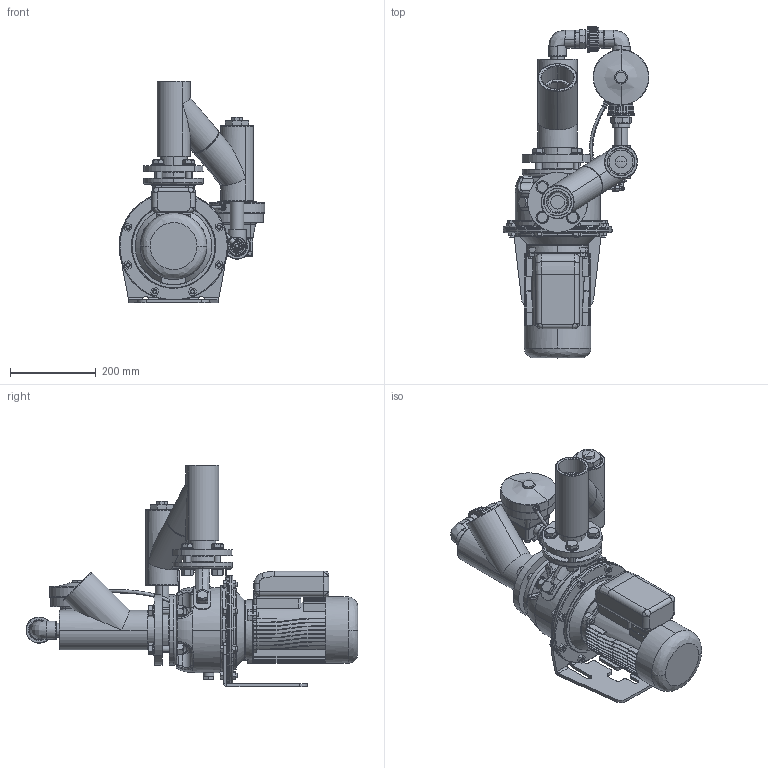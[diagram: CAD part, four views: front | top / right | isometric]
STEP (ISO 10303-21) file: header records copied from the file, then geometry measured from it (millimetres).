
FILE_DESCRIPTION (( 'STEP AP203' ), '1' );
FILE_NAME ('Lowara SHE 32-160 z.a.z auto. by-pass .STEP', '2011-04-05T11:54:22', ( '' ), ( '' ), 'SwSTEP 2.0', 'SolidWorks 2010', '' );
FILE_SCHEMA (( 'CONFIG_CONTROL_DESIGN' ));
Length unit declared in the file: millimetre
Products named in the file (1): Lowara SHE 32-160 z.a.z auto. by-pass 
Bounding box: 340 x 774.44 x 516.36 mm (x, y, z)
Volume: 14498341.5 mm3; surface area: 1815642.9 mm2
Topology: 65 solids, 67 shells, 2734 faces, 6931 edges, 4317 vertices
Faces by surface type: plane 1034, cylinder 880, cone 398, bspline 373, torus 49
Entity records: 107117 total; most frequent: CARTESIAN_POINT 44282, ORIENTED_EDGE 13634, DIRECTION 12563, EDGE_CURVE 6817, AXIS2_PLACEMENT_3D 4942, VERTEX_POINT 4321, EDGE_LOOP 3002, ADVANCED_FACE 2734
